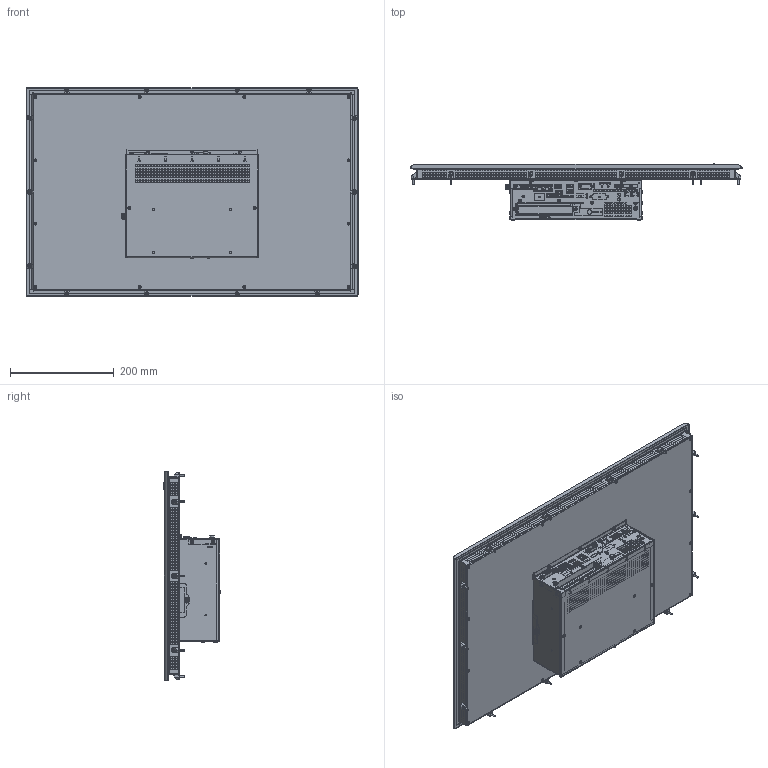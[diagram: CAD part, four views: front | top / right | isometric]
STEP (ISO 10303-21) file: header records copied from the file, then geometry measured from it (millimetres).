
FILE_DESCRIPTION((''),'2;1');
FILE_NAME('C6E22-Panel_240W_RES_S1','2017-03-07T',('manpal'),(''),'PRO/ENGINEER BY PARAMETRIC TECHNOLOGY CORPORATION, 2013410','PRO/ENGINEER BY PARAMETRIC TECHNOLOGY CORPORATION, 2013410','');
FILE_SCHEMA(('AUTOMOTIVE_DESIGN { 1 0 10303 214 1 1 1 1 }'));
Products named in the file (2): C6E22-Panel_240W_RES_S1_
Assembly tree (1 placements, depth 2):
  C6E22-Panel_240W_RES_S1_
    C6E22-Panel_240W_RES_S1_
Bounding box: 639.5 x 111.22 x 402 mm (x, y, z)
Surface area: 1407750.1 mm2 (no closed solid volume)
Topology: 0 solids, 366 shells, 5577 faces, 26191 edges, 20733 vertices
Faces by surface type: plane 4274, cylinder 759, cone 269, bspline 189, sphere 42, torus 40, extrusion 4
Entity records: 294882 total; most frequent: CARTESIAN_POINT 71033, DIRECTION 38660, ORIENTED_EDGE 36767, EDGE_CURVE 26147, VECTOR 21470, LINE 21466, VERTEX_POINT 20733, AXIS2_PLACEMENT_3D 8595
